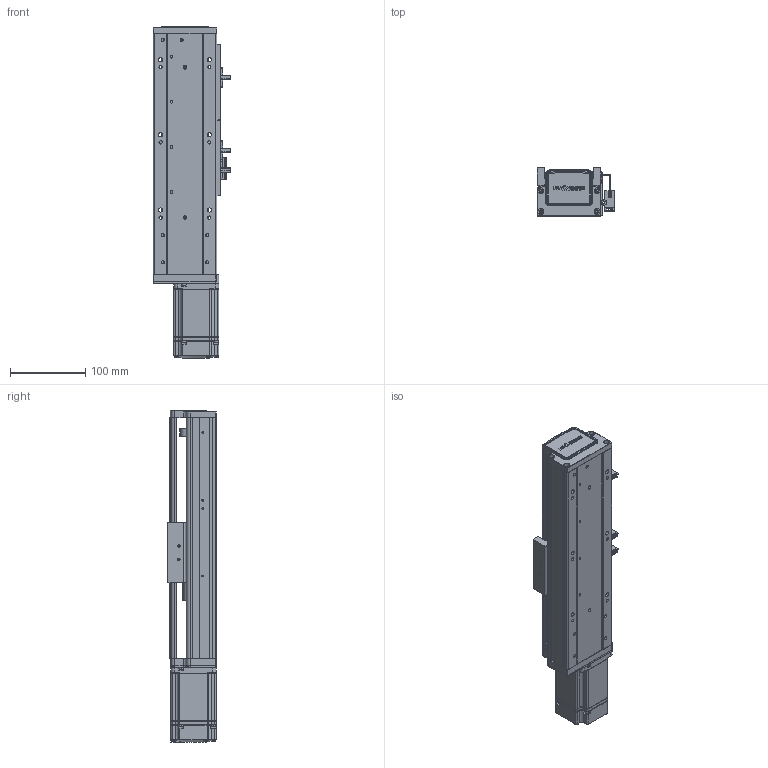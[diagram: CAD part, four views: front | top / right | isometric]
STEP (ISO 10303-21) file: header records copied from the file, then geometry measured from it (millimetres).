
FILE_DESCRIPTION (( 'STEP AP203' ), '1' );
FILE_NAME ('RY80-L1620-300-MK.SLDASM_100.step', '2021-02-20T02:32:53', ( '' ), ( '' ), 'SwSTEP 2.0', 'SolidWorks 2012', '' );
FILE_SCHEMA (( 'CONFIG_CONTROL_DESIGN' ));
Length unit declared in the file: millimetre
Products named in the file (14): 672嫖萇羲壽假蚾釱; 滅袉蝶18-10; 侂狟200W萇儂; 1; RY80-L1620-300-MK.SLDASM_100; RY80俋离覜茼え; RY80前盖板(100W电机 PCD46 M4); RY80綴裔啣; 滅袉蝶18-24; 覜茼ん672; RY80-300-MK倰第奻裔啣_100; RY80-300-MK倰第菁釱_100; RY80前盖板(200W电机)M4; RY80臏賑輸
Assembly tree (16 placements, depth 3):
  RY80-L1620-300-MK.SLDASM_100
    RY80-300-MK倰第菁釱_100
    RY80臏賑輸
    RY80-300-MK倰第奻裔啣_100
    RY80前盖板(200W电机)M4
    侂狟200W萇儂
      1
    滅袉蝶18-10
    672嫖萇羲壽假蚾釱  x2
    覜茼ん672  x3
    RY80俋离覜茼え
    滅袉蝶18-24
    RY80綴裔啣
    RY80前盖板(100W电机 PCD46 M4)
Bounding box: 103.7 x 65 x 442 mm (x, y, z)
Volume: 989920.6 mm3; surface area: 319343.7 mm2
Topology: 15 solids, 15 shells, 1896 faces, 5190 edges, 3377 vertices
Faces by surface type: plane 1085, cylinder 632, cone 125, bspline 54
Entity records: 58317 total; most frequent: CARTESIAN_POINT 13849, ORIENTED_EDGE 9120, DIRECTION 8663, EDGE_CURVE 4560, VERTEX_POINT 2993, LINE 2941, VECTOR 2941, AXIS2_PLACEMENT_3D 2861
